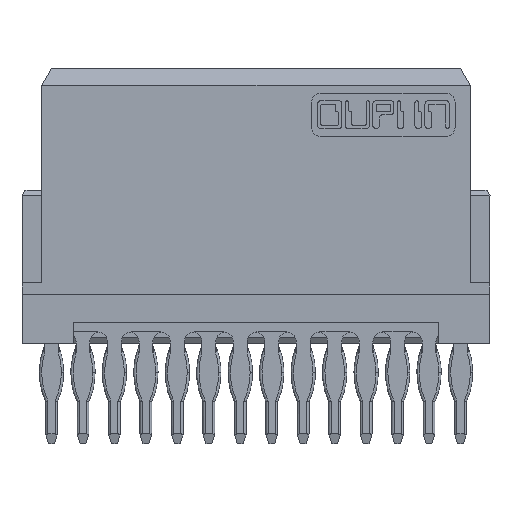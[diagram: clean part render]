
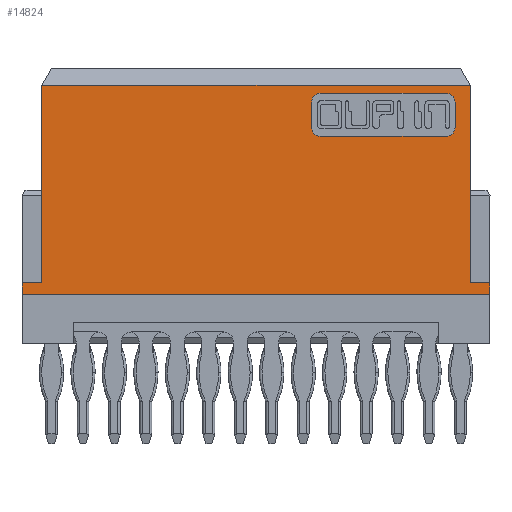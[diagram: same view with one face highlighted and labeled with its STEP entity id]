
A CAD part, front view. The second image highlights one B-rep face of the part: STEP entity #14824.
In plain terms, the highlighted planar face has unit normal (0, -1, 0).
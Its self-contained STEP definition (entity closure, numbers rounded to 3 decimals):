
#1472 = LINE ( 'NONE', #1473, #64823 ) ;
#1473 = CARTESIAN_POINT ( 'NONE',  ( -15.638, -4.144, -3.5 ) ) ;
#1474 = DIRECTION ( 'NONE',  ( 0., 0., -1. ) ) ;
#1647 = LINE ( 'NONE', #1648, #64881 ) ;
#1648 = CARTESIAN_POINT ( 'NONE',  ( 8.162, -4.144, 4.04 ) ) ;
#1649 = DIRECTION ( 'NONE',  ( 0., 0., 1. ) ) ;
#1659 = LINE ( 'NONE', #1660, #64885 ) ;
#1660 = CARTESIAN_POINT ( 'NONE',  ( -15.638, -4.144, 9.634 ) ) ;
#1661 = DIRECTION ( 'NONE',  ( 1., 0., 0. ) ) ;
#1665 = LINE ( 'NONE', #1667, #64887 ) ;
#1667 = CARTESIAN_POINT ( 'NONE',  ( -15.638, -4.144, -1. ) ) ;
#1668 = DIRECTION ( 'NONE',  ( -1., 0., 0. ) ) ;
#1677 = LINE ( 'NONE', #1679, #64891 ) ;
#1679 = CARTESIAN_POINT ( 'NONE',  ( -15.638, -4.144, -0.4 ) ) ;
#1680 = DIRECTION ( 'NONE',  ( 1., 0., 0. ) ) ;
#3180 = VECTOR ( 'NONE', #6285, 1000. ) ;
#3181 = VECTOR ( 'NONE', #6293, 1000. ) ;
#3182 = CIRCLE ( 'NONE', #3187, 0.448 ) ;
#3185 = CIRCLE ( 'NONE', #3193, 0.448 ) ;
#3187 = AXIS2_PLACEMENT_3D ( 'NONE', #6289, #6290, #6291 ) ;
#3189 = VECTOR ( 'NONE', #6299, 1000. ) ;
#3191 = CIRCLE ( 'NONE', #3199, 0.448 ) ;
#3193 = AXIS2_PLACEMENT_3D ( 'NONE', #6295, #6296, #6297 ) ;
#3195 = VECTOR ( 'NONE', #6305, 1000. ) ;
#3197 = CIRCLE ( 'NONE', #3205, 0.448 ) ;
#3199 = AXIS2_PLACEMENT_3D ( 'NONE', #6301, #6302, #6303 ) ;
#3201 = VECTOR ( 'NONE', #6312, 1000. ) ;
#3203 = VECTOR ( 'NONE', #6318, 1000. ) ;
#3205 = AXIS2_PLACEMENT_3D ( 'NONE', #6309, #6310, #6311 ) ;
#3207 = VECTOR ( 'NONE', #6316, 1000. ) ;
#6282 = LINE ( 'NONE', #6284, #3180 ) ;
#6283 = CARTESIAN_POINT ( 'NONE',  ( -3.738, -4.144, 9.238 ) ) ;
#6284 = CARTESIAN_POINT ( 'NONE',  ( -15.638, -4.144, -0.4 ) ) ;
#6285 = DIRECTION ( 'NONE',  ( 1., 0., 0. ) ) ;
#6288 = LINE ( 'NONE', #6283, #3181 ) ;
#6289 = CARTESIAN_POINT ( 'NONE',  ( -0.46, -4.144, 8.79 ) ) ;
#6290 = DIRECTION ( 'NONE',  ( 0., -1., 0. ) ) ;
#6291 = DIRECTION ( 'NONE',  ( 0., 0., -1. ) ) ;
#6292 = CARTESIAN_POINT ( 'NONE',  ( 6.387, -4.144, -16.1 ) ) ;
#6293 = DIRECTION ( 'NONE',  ( -1., 0., 0. ) ) ;
#6294 = LINE ( 'NONE', #6292, #3189 ) ;
#6295 = CARTESIAN_POINT ( 'NONE',  ( 5.939, -4.144, 8.79 ) ) ;
#6296 = DIRECTION ( 'NONE',  ( 0., -1., 0. ) ) ;
#6297 = DIRECTION ( 'NONE',  ( 0., 0., -1. ) ) ;
#6298 = CARTESIAN_POINT ( 'NONE',  ( -3.738, -4.144, 7.051 ) ) ;
#6299 = DIRECTION ( 'NONE',  ( 0., 0., 1. ) ) ;
#6300 = LINE ( 'NONE', #6298, #3195 ) ;
#6301 = CARTESIAN_POINT ( 'NONE',  ( 5.939, -4.144, 7.499 ) ) ;
#6302 = DIRECTION ( 'NONE',  ( 0., -1., 0. ) ) ;
#6303 = DIRECTION ( 'NONE',  ( 0., 0., -1. ) ) ;
#6304 = CARTESIAN_POINT ( 'NONE',  ( -0.908, -4.144, -16.1 ) ) ;
#6305 = DIRECTION ( 'NONE',  ( -1., 0., 0. ) ) ;
#6307 = LINE ( 'NONE', #6317, #3203 ) ;
#6308 = LINE ( 'NONE', #6304, #3201 ) ;
#6309 = CARTESIAN_POINT ( 'NONE',  ( -0.46, -4.144, 7.499 ) ) ;
#6310 = DIRECTION ( 'NONE',  ( 0., -1., 0. ) ) ;
#6311 = DIRECTION ( 'NONE',  ( 0., 0., -1. ) ) ;
#6312 = DIRECTION ( 'NONE',  ( 0., 0., 1. ) ) ;
#6313 = LINE ( 'NONE', #6315, #3207 ) ;
#6315 = CARTESIAN_POINT ( 'NONE',  ( 7.162, -4.144, 9.634 ) ) ;
#6316 = DIRECTION ( 'NONE',  ( 0., 0., 1. ) ) ;
#6317 = CARTESIAN_POINT ( 'NONE',  ( -14.638, -4.144, -0.4 ) ) ;
#6318 = DIRECTION ( 'NONE',  ( 0., 0., -1. ) ) ;
#14824 = ADVANCED_FACE ( 'NONE', ( #29910, #29895 ), #29912, .F. ) ;
#17746 = ORIENTED_EDGE ( 'NONE', *, *, #46802, .T. ) ;
#17748 = ORIENTED_EDGE ( 'NONE', *, *, #63829, .F. ) ;
#17750 = ORIENTED_EDGE ( 'NONE', *, *, #46801, .T. ) ;
#17752 = ORIENTED_EDGE ( 'NONE', *, *, #46791, .F. ) ;
#17754 = ORIENTED_EDGE ( 'NONE', *, *, #63822, .T. ) ;
#17756 = ORIENTED_EDGE ( 'NONE', *, *, #63832, .F. ) ;
#17758 = ORIENTED_EDGE ( 'NONE', *, *, #63709, .T. ) ;
#17760 = ORIENTED_EDGE ( 'NONE', *, *, #63838, .F. ) ;
#17762 = ORIENTED_EDGE ( 'NONE', *, *, #46800, .T. ) ;
#17763 = ORIENTED_EDGE ( 'NONE', *, *, #46799, .F. ) ;
#17765 = ORIENTED_EDGE ( 'NONE', *, *, #46798, .T. ) ;
#17766 = ORIENTED_EDGE ( 'NONE', *, *, #46797, .F. ) ;
#17767 = ORIENTED_EDGE ( 'NONE', *, *, #46796, .F. ) ;
#17769 = ORIENTED_EDGE ( 'NONE', *, *, #46795, .F. ) ;
#17771 = ORIENTED_EDGE ( 'NONE', *, *, #46794, .F. ) ;
#17773 = ORIENTED_EDGE ( 'NONE', *, *, #46793, .F. ) ;
#19760 = EDGE_LOOP ( 'NONE', ( #17773, #17771, #17769, #17767, #17766, #17765, #17763, #17762 ) ) ;
#20294 = EDGE_LOOP ( 'NONE', ( #17760, #17758, #17756, #17754, #17752, #17750, #17748, #17746 ) ) ;
#29626 = AXIS2_PLACEMENT_3D ( 'NONE', #29921, #29922, #29923 ) ;
#29895 = FACE_OUTER_BOUND ( 'NONE', #20294, .T. ) ;
#29910 = FACE_BOUND ( 'NONE', #19760, .T. ) ;
#29912 = PLANE ( 'NONE',  #29626 ) ;
#29921 = CARTESIAN_POINT ( 'NONE',  ( -15.638, -4.144, -1. ) ) ;
#29922 = DIRECTION ( 'NONE',  ( 0., 1., 0. ) ) ;
#29923 = DIRECTION ( 'NONE',  ( 0., 0., 1. ) ) ;
#34645 = CARTESIAN_POINT ( 'NONE',  ( -0.46, -4.144, 7.051 ) ) ;
#34658 = CARTESIAN_POINT ( 'NONE',  ( -0.908, -4.144, 7.499 ) ) ;
#34666 = CARTESIAN_POINT ( 'NONE',  ( 6.387, -4.144, 8.79 ) ) ;
#34667 = CARTESIAN_POINT ( 'NONE',  ( -0.908, -4.144, 8.79 ) ) ;
#34669 = CARTESIAN_POINT ( 'NONE',  ( -0.46, -4.144, 9.238 ) ) ;
#34670 = CARTESIAN_POINT ( 'NONE',  ( 6.387, -4.144, 7.499 ) ) ;
#34682 = CARTESIAN_POINT ( 'NONE',  ( 5.939, -4.144, 7.051 ) ) ;
#34690 = CARTESIAN_POINT ( 'NONE',  ( 5.939, -4.144, 9.238 ) ) ;
#34707 = CARTESIAN_POINT ( 'NONE',  ( 7.162, -4.144, -0.4 ) ) ;
#44240 = CARTESIAN_POINT ( 'NONE',  ( 8.162, -4.144, -1. ) ) ;
#44241 = CARTESIAN_POINT ( 'NONE',  ( -15.638, -4.144, -1. ) ) ;
#44254 = CARTESIAN_POINT ( 'NONE',  ( -14.638, -4.144, -0.4 ) ) ;
#44260 = CARTESIAN_POINT ( 'NONE',  ( -15.638, -4.144, -0.4 ) ) ;
#44265 = CARTESIAN_POINT ( 'NONE',  ( 8.162, -4.144, -0.4 ) ) ;
#44276 = CARTESIAN_POINT ( 'NONE',  ( 7.162, -4.144, 9.634 ) ) ;
#44277 = CARTESIAN_POINT ( 'NONE',  ( -14.638, -4.144, 9.634 ) ) ;
#46791 = EDGE_CURVE ( 'NONE', #54588, #61764, #6282, .T. ) ;
#46793 = EDGE_CURVE ( 'NONE', #54529, #54526, #3182, .T. ) ;
#46794 = EDGE_CURVE ( 'NONE', #54563, #54529, #6288, .T. ) ;
#46795 = EDGE_CURVE ( 'NONE', #54525, #54563, #3185, .T. ) ;
#46796 = EDGE_CURVE ( 'NONE', #54530, #54525, #6294, .T. ) ;
#46797 = EDGE_CURVE ( 'NONE', #54548, #54530, #3191, .T. ) ;
#46798 = EDGE_CURVE ( 'NONE', #54548, #54484, #6300, .T. ) ;
#46799 = EDGE_CURVE ( 'NONE', #54510, #54484, #3197, .T. ) ;
#46800 = EDGE_CURVE ( 'NONE', #54510, #54526, #6308, .T. ) ;
#46801 = EDGE_CURVE ( 'NONE', #54588, #61775, #6313, .T. ) ;
#46802 = EDGE_CURVE ( 'NONE', #61776, #61753, #6307, .T. ) ;
#54484 = VERTEX_POINT ( 'NONE', #34645 ) ;
#54510 = VERTEX_POINT ( 'NONE', #34658 ) ;
#54525 = VERTEX_POINT ( 'NONE', #34666 ) ;
#54526 = VERTEX_POINT ( 'NONE', #34667 ) ;
#54529 = VERTEX_POINT ( 'NONE', #34669 ) ;
#54530 = VERTEX_POINT ( 'NONE', #34670 ) ;
#54548 = VERTEX_POINT ( 'NONE', #34682 ) ;
#54563 = VERTEX_POINT ( 'NONE', #34690 ) ;
#54588 = VERTEX_POINT ( 'NONE', #34707 ) ;
#61739 = VERTEX_POINT ( 'NONE', #44240 ) ;
#61740 = VERTEX_POINT ( 'NONE', #44241 ) ;
#61753 = VERTEX_POINT ( 'NONE', #44254 ) ;
#61759 = VERTEX_POINT ( 'NONE', #44260 ) ;
#61764 = VERTEX_POINT ( 'NONE', #44265 ) ;
#61775 = VERTEX_POINT ( 'NONE', #44276 ) ;
#61776 = VERTEX_POINT ( 'NONE', #44277 ) ;
#63709 = EDGE_CURVE ( 'NONE', #61759, #61740, #1472, .T. ) ;
#63822 = EDGE_CURVE ( 'NONE', #61739, #61764, #1647, .T. ) ;
#63829 = EDGE_CURVE ( 'NONE', #61776, #61775, #1659, .T. ) ;
#63832 = EDGE_CURVE ( 'NONE', #61739, #61740, #1665, .T. ) ;
#63838 = EDGE_CURVE ( 'NONE', #61759, #61753, #1677, .T. ) ;
#64823 = VECTOR ( 'NONE', #1474, 1000. ) ;
#64881 = VECTOR ( 'NONE', #1649, 1000. ) ;
#64885 = VECTOR ( 'NONE', #1661, 1000. ) ;
#64887 = VECTOR ( 'NONE', #1668, 1000. ) ;
#64891 = VECTOR ( 'NONE', #1680, 1000. ) ;
